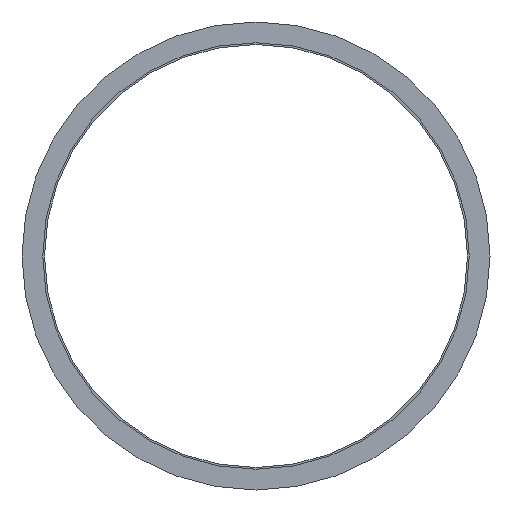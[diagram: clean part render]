
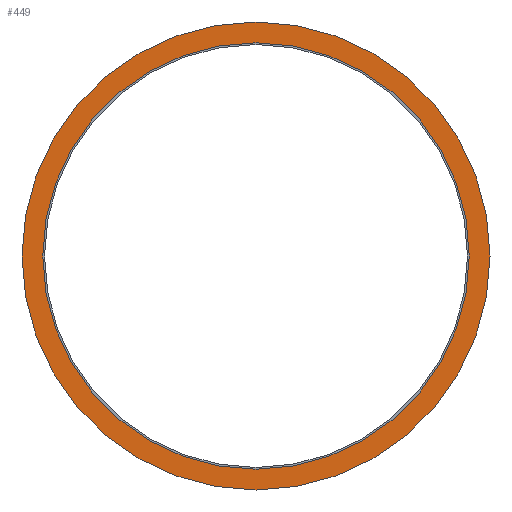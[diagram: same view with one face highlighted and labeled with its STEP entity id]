
A CAD part, front view. The second image highlights one B-rep face of the part: STEP entity #449.
In plain terms, the highlighted planar face has unit normal (0, -1, 0).
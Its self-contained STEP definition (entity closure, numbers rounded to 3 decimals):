
#7 = CARTESIAN_POINT ( 'NONE',  ( 0., 0., -250.55 ) ) ;
#9 = CARTESIAN_POINT ( 'NONE',  ( 0., 0., 0. ) ) ;
#12 = DIRECTION ( 'NONE',  ( 0., 0., -1. ) ) ;
#17 = ORIENTED_EDGE ( 'NONE', *, *, #546, .T. ) ;
#18 = PLANE ( 'NONE',  #231 ) ;
#23 = VERTEX_POINT ( 'NONE', #7 ) ;
#42 = AXIS2_PLACEMENT_3D ( 'NONE', #492, #321, #129 ) ;
#53 = EDGE_LOOP ( 'NONE', ( #315, #17 ) ) ;
#55 = EDGE_CURVE ( 'NONE', #171, #23, #467, .T. ) ;
#67 = DIRECTION ( 'NONE',  ( 0., 0., 1. ) ) ;
#79 = DIRECTION ( 'NONE',  ( 0., -1., 0. ) ) ;
#117 = CIRCLE ( 'NONE', #240, 275. ) ;
#126 = EDGE_CURVE ( 'NONE', #23, #171, #230, .T. ) ;
#129 = DIRECTION ( 'NONE',  ( 0., 0., -1. ) ) ;
#130 = ORIENTED_EDGE ( 'NONE', *, *, #126, .F. ) ;
#166 = DIRECTION ( 'NONE',  ( 0., -1., 0. ) ) ;
#171 = VERTEX_POINT ( 'NONE', #307 ) ;
#207 = FACE_BOUND ( 'NONE', #501, .T. ) ;
#208 = DIRECTION ( 'NONE',  ( 0., -1., 0. ) ) ;
#210 = VERTEX_POINT ( 'NONE', #224 ) ;
#219 = AXIS2_PLACEMENT_3D ( 'NONE', #266, #166, #545 ) ;
#224 = CARTESIAN_POINT ( 'NONE',  ( 0., 0., 275. ) ) ;
#230 = CIRCLE ( 'NONE', #42, 250.55 ) ;
#231 = AXIS2_PLACEMENT_3D ( 'NONE', #294, #586, #67 ) ;
#240 = AXIS2_PLACEMENT_3D ( 'NONE', #589, #79, #405 ) ;
#266 = CARTESIAN_POINT ( 'NONE',  ( 0., 0., 0. ) ) ;
#294 = CARTESIAN_POINT ( 'NONE',  ( 0., 0., 275. ) ) ;
#307 = CARTESIAN_POINT ( 'NONE',  ( 0., 0., 250.55 ) ) ;
#315 = ORIENTED_EDGE ( 'NONE', *, *, #520, .T. ) ;
#320 = VERTEX_POINT ( 'NONE', #423 ) ;
#321 = DIRECTION ( 'NONE',  ( 0., -1., 0. ) ) ;
#395 = FACE_OUTER_BOUND ( 'NONE', #53, .T. ) ;
#405 = DIRECTION ( 'NONE',  ( 0., 0., -1. ) ) ;
#423 = CARTESIAN_POINT ( 'NONE',  ( 0., 0., -275. ) ) ;
#449 = ADVANCED_FACE ( 'NONE', ( #207, #395 ), #18, .F. ) ;
#467 = CIRCLE ( 'NONE', #504, 250.55 ) ;
#468 = ORIENTED_EDGE ( 'NONE', *, *, #55, .F. ) ;
#492 = CARTESIAN_POINT ( 'NONE',  ( 0., 0., 0. ) ) ;
#493 = CIRCLE ( 'NONE', #219, 275. ) ;
#501 = EDGE_LOOP ( 'NONE', ( #130, #468 ) ) ;
#504 = AXIS2_PLACEMENT_3D ( 'NONE', #9, #208, #12 ) ;
#520 = EDGE_CURVE ( 'NONE', #320, #210, #493, .T. ) ;
#545 = DIRECTION ( 'NONE',  ( 0., 0., -1. ) ) ;
#546 = EDGE_CURVE ( 'NONE', #210, #320, #117, .T. ) ;
#586 = DIRECTION ( 'NONE',  ( 0., 1., 0. ) ) ;
#589 = CARTESIAN_POINT ( 'NONE',  ( 0., 0., 0. ) ) ;
